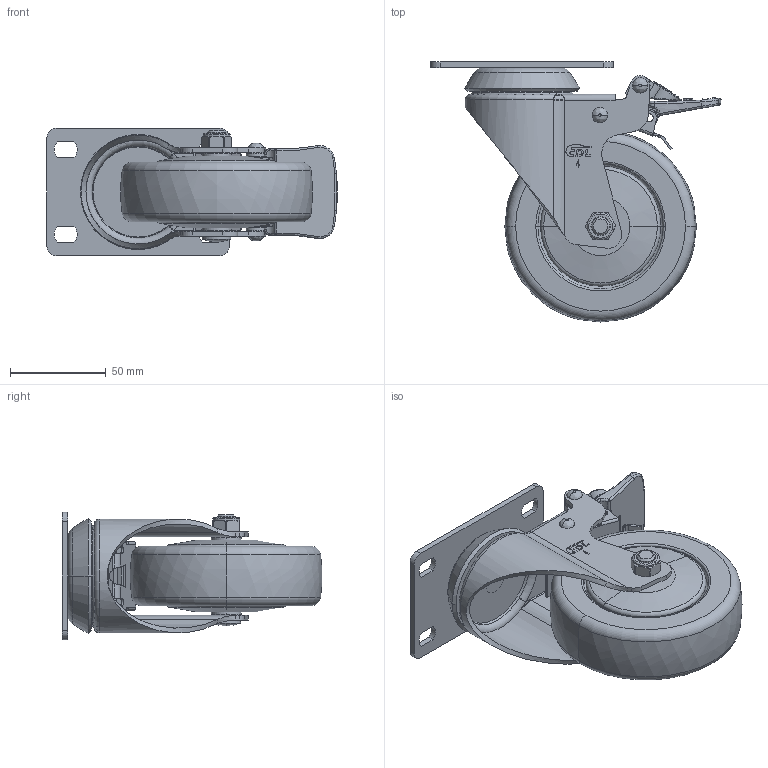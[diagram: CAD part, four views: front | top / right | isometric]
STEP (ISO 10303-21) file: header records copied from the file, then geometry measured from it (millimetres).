
FILE_DESCRIPTION((''),'2;1');
FILE_NAME('57224H-574-77_ASM','2021-01-05T',('lenovo'),(''),'PRO/ENGINEER BY PARAMETRIC TECHNOLOGY CORPORATION, 2010280','PRO/ENGINEER BY PARAMETRIC TECHNOLOGY CORPORATION, 2010280','');
FILE_SCHEMA(('CONFIG_CONTROL_DESIGN'));
Length unit declared in the file: millimetre
Products named in the file (10): 5710-201; 5724-321; 5720-211; 574-77; 5710-020; 5710-031; 570-64OFF; 5734-401; 571-64ON; 57224H-574-77_ASM
Assembly tree (9 placements, depth 2):
  57224H-574-77_ASM
    5710-201
    5724-321
    5720-211
    574-77
    5710-020
    5710-031
    570-64OFF
    5734-401
    571-64ON
Bounding box: 151.19 x 135.41 x 66.5 mm (x, y, z)
Volume: 347143.2 mm3; surface area: 95440.9 mm2
Topology: 9 solids, 9 shells, 789 faces, 2049 edges, 1296 vertices
Faces by surface type: plane 392, cylinder 203, bspline 76, cone 64, torus 50, sphere 4
Entity records: 27579 total; most frequent: CARTESIAN_POINT 8426, ORIENTED_EDGE 4086, DIRECTION 3808, EDGE_CURVE 2043, AXIS2_PLACEMENT_3D 1340, VERTEX_POINT 1294, VECTOR 1128, LINE 1128
